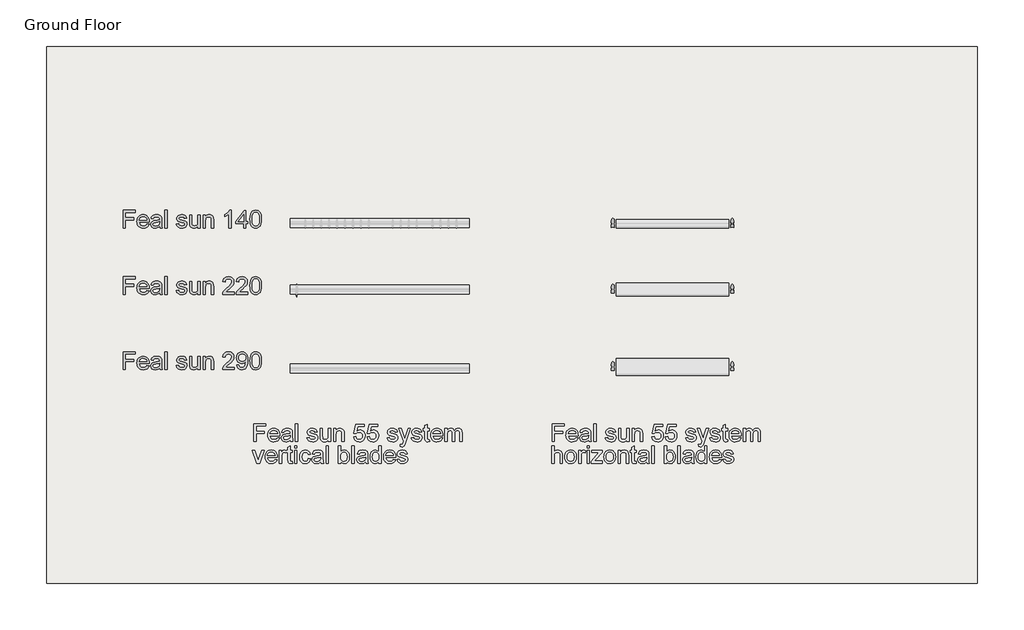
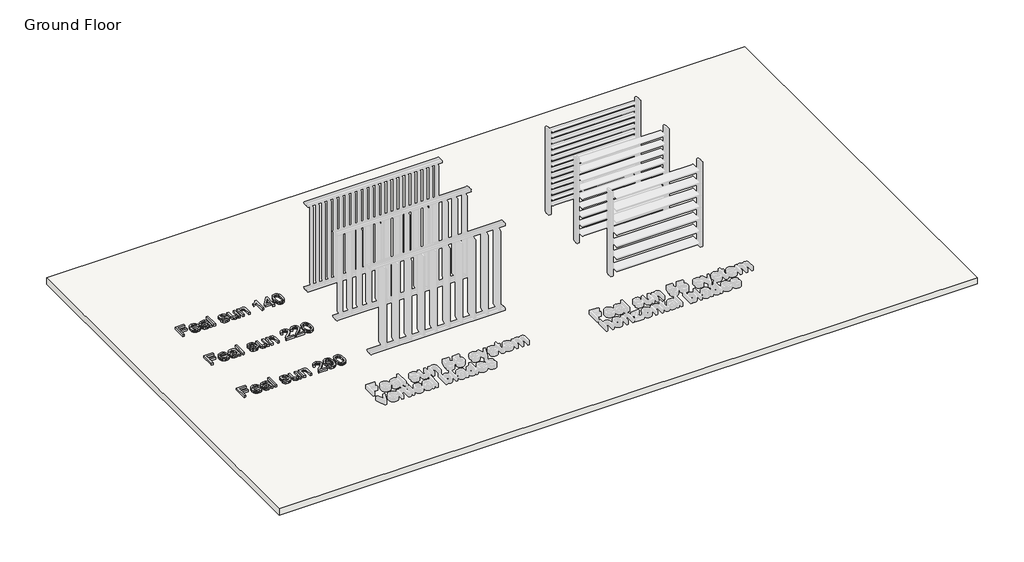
# One storey, part 1 of 3: 3 proxies, 1 slab.
"""IFC4 building model written with IfcOpenShell, lengths in millimetres."""

from ifc_helpers import new_model, si_unit, frame, origin, origin_with_axes, place, context, project, spatial, polyline, outline, extrude, element, save

model = new_model("IFC4")

# Units and contexts
model_context = context("Model", 3, world=origin())
ifc_project = project(units=[si_unit("LENGTHUNIT", "METRE", prefix="MILLI")], contexts=[model_context])

# Site, building, storey
site = spatial("IfcSite", under=ifc_project)
building = spatial("IfcBuilding", under=site)
storey = spatial("IfcBuildingStorey", under=building, Name="Ground Floor", Elevation=0.0)

# Proxies
placement = place(None, origin())
element("IfcBuildingElementProxy", 1, Name="600mm Arial", ObjectType="600mm Arial", at=placement, inside=storey, context=model_context, shape_type="SweptSolid", body=[
    extrude(outline(polyline([(-1988.9380209, -5184.120263), (-1988.9380209, -4888.7356476), (-1790.4764824, -4888.7356476), (-1790.4764824, -4925.6587245), (-1952.0149439, -4925.6587245), (-1952.0149439, -5013.3510322), (-1813.5534055, -5013.3510322), (-1813.5534055, -5050.2741091), (-1952.0149439, -5050.2741091), (-1952.0149439, -5184.120263), (-1988.9380209, -5184.120263)])), origin_with_axes(), (0.0, 0.0, 1.0), 50.0),
    extrude(outline(polyline([(-1592.4476363, -5119.5048784), (-1556.2457132, -5124.120263), (-1569.2895834, -5151.3979072), (-1590.1038863, -5171.7885322), (-1618.2198718, -5184.4988688), (-1653.1687901, -5188.7356476), (-1676.0789464, -5186.9079733), (-1696.4921074, -5181.4249505), (-1714.4082733, -5172.2865791), (-1729.8274439, -5159.4928591), (-1742.2267829, -5143.3998604), (-1751.0834536, -5124.3636524), (-1756.397456, -5102.3842354), (-1758.1687901, -5077.4616091), (-1756.3794271, -5051.6938808), (-1751.0113382, -5028.9820418), (-1742.0645233, -5009.3260923), (-1729.5389824, -4992.7260322), (-1714.1603766, -4979.5379313), (-1696.654367, -4970.1178591), (-1677.0209536, -4964.4658159), (-1655.2601363, -4962.5818015), (-1634.2001903, -4964.4613087), (-1615.154968, -4970.0998303), (-1598.1244692, -4979.4973664), (-1583.1086939, -4992.6539168), (-1570.8513322, -5009.2179192), (-1562.0960738, -5028.8378111), (-1556.8429187, -5051.5135923), (-1555.091867, -5077.245263), (-1555.3082132, -5087.1971861), (-1721.2457132, -5087.1971861), (-1714.8544872, -5114.8354072), (-1700.0077324, -5135.1539168), (-1678.5804488, -5147.6479072), (-1652.4476363, -5151.8125707), (-1632.7961939, -5149.8834841), (-1616.2457132, -5144.0962245), (-1602.7961939, -5134.0902149), (-1592.4476363, -5119.5048784)]), holes=[polyline([(-1721.2457132, -5050.2741091), (-1592.0149439, -5050.2741091), (-1597.0089343, -5030.7668976), (-1606.7985978, -5016.8125707), (-1628.3250401, -5003.8318015), (-1655.404367, -4999.5048784), (-1680.2931891, -5002.9574024), (-1700.873117, -5013.3149745), (-1715.1790064, -5029.4598063), (-1721.2457132, -5050.2741091)])]), origin_with_axes(), (0.0, 0.0, 1.0), 50.0),
    extrude(outline(polyline([(-1379.7072516, -5156.4279553), (-1397.3484776, -5171.5541572), (-1415.5125401, -5181.4519938), (-1434.6141026, -5186.9147341), (-1455.0678286, -5188.7356476), (-1485.9241988, -5184.354638), (-1508.685617, -5171.2116091), (-1522.7210738, -5151.2536765), (-1527.3995593, -5126.4279553), (-1525.6327324, -5111.1214649), (-1520.3322516, -5097.2212245), (-1512.1561699, -5085.3221861), (-1501.7625401, -5076.0193015), (-1475.9091747, -5063.9039168), (-1443.9620593, -5058.3510322), (-1406.2096555, -5052.5096861), (-1379.9235978, -5045.6587245), (-1379.7072516, -5037.4375707), (-1382.2493189, -5020.9592053), (-1389.8755209, -5010.1779553), (-1406.9308093, -5002.1731476), (-1430.6928286, -4999.5048784), (-1452.6880209, -5001.2807197), (-1468.0485978, -5006.6082438), (-1478.5233574, -5016.4610082), (-1485.8610978, -5031.8125707), (-1522.7841747, -5027.1971861), (-1516.3749199, -5007.0048784), (-1506.810617, -4991.1394938), (-1493.1988382, -4979.0060803), (-1474.6471555, -4970.0096861), (-1451.9578526, -4964.4387726), (-1425.9332132, -4962.5818015), (-1400.9722757, -4964.2224265), (-1381.185617, -4969.1443015), (-1366.2667468, -4976.5451428), (-1355.9091747, -4985.6226668), (-1349.0401843, -4996.8456236), (-1344.5870593, -5010.682763), (-1342.7841747, -5042.9904553), (-1342.7841747, -5088.9279553), (-1340.9091747, -5153.0745899), (-1333.5534055, -5184.120263), (-1370.4764824, -5184.120263), (-1379.7072516, -5156.4279553)]), holes=[polyline([(-1379.7072516, -5082.5818015), (-1439.2745593, -5093.9039168), (-1471.0413863, -5099.8894938), (-1485.4284055, -5109.6250707), (-1490.4764824, -5123.8318015), (-1487.7270834, -5134.8113688), (-1479.4788863, -5143.807763), (-1465.9121795, -5149.8113688), (-1447.2072516, -5151.8125707), (-1427.3755209, -5149.604037), (-1409.8514824, -5142.9784361), (-1395.6447516, -5133.2158159), (-1385.7649439, -5121.5962245), (-1381.3839343, -5109.6250707), (-1379.9235978, -5093.0385322), (-1379.7072516, -5082.5818015)])]), origin_with_axes(), (0.0, 0.0, 1.0), 50.0),
    extrude(outline(polyline([(-1292.0149439, -5184.120263), (-1292.0149439, -4888.7356476), (-1255.091867, -4888.7356476), (-1255.091867, -5184.120263), (-1292.0149439, -5184.120263)])), origin_with_axes(), (0.0, 0.0, 1.0), 50.0),
    extrude(outline(polyline([(-1098.1687901, -5119.5048784), (-1061.2457132, -5114.8894938), (-1055.4223959, -5130.682763), (-1044.154367, -5142.2933399), (-1027.3695113, -5149.432763), (-1004.9957132, -5151.8125707), (-982.8923478, -5149.6310803), (-967.3514824, -5143.0866091), (-958.1567709, -5133.6034361), (-955.091867, -5122.6058399), (-958.1747997, -5113.1947822), (-967.4235978, -5106.0193015), (-1005.4284055, -5095.4904553), (-1061.029367, -5077.4255515), (-1075.1008814, -5068.3480274), (-1085.2961939, -5056.3318015), (-1091.4891026, -5042.1430995), (-1093.5534055, -5026.5481476), (-1091.8947516, -5012.2422582), (-1086.9187901, -4999.0361284), (-1079.076242, -4987.4525947), (-1068.8178286, -4978.0144938), (-1045.3442709, -4967.089013), (-1013.5774439, -4962.5818015), (-989.544992, -4964.3937005), (-968.6495593, -4969.8293976), (-951.8466747, -4978.3570418), (-940.091867, -4989.4447822), (-932.3034055, -5003.9129313), (-927.3995593, -5022.5818015), (-964.3226363, -5027.1971861), (-968.983093, -5015.5775947), (-978.2048478, -5006.8245899), (-992.0780449, -5001.3348063), (-1010.6928286, -4999.5048784), (-1031.8947516, -5001.2536765), (-1046.029367, -5006.5000707), (-1053.9800882, -5014.0721861), (-1056.6303286, -5022.7981476), (-1052.2312901, -5033.5433399), (-1038.4572516, -5041.6923784), (-1006.654367, -5049.5529553), (-952.4596555, -5066.932763), (-938.1447516, -5075.2440611), (-927.2913863, -5086.620263), (-920.4494391, -5101.0974265), (-918.1687901, -5118.7116091), (-920.8460738, -5136.9207438), (-928.8779247, -5154.0481476), (-941.9578526, -5168.7506716), (-959.779367, -5179.6851668), (-981.3058093, -5186.4730274), (-1005.5005209, -5188.7356476), (-1042.7300882, -5184.3726668), (-1069.8995593, -5171.2837245), (-1088.0365786, -5149.6130515), (-1098.1687901, -5119.5048784)])), origin_with_axes(), (0.0, 0.0, 1.0), 50.0),
    extrude(outline(polyline([(-738.1687901, -5184.120263), (-738.1687901, -5146.8366091), (-751.5281651, -5165.1674385), (-767.0870593, -5178.260888), (-784.8454728, -5186.1169577), (-804.8034055, -5188.7356476), (-822.7871795, -5186.8967053), (-839.5269632, -5181.3798784), (-853.5714343, -5173.0866091), (-863.4692709, -5162.9183399), (-874.466867, -5135.7308399), (-876.6303286, -5101.4039168), (-876.6303286, -4967.1971861), (-839.7072516, -4967.1971861), (-839.7072516, -5084.0241091), (-837.4716747, -5121.6683399), (-832.0900641, -5134.2254313), (-822.8683093, -5143.7717053), (-810.4193911, -5149.8023543), (-795.3562901, -5151.8125707), (-779.4278045, -5149.7572822), (-764.5269632, -5143.5914168), (-752.2403045, -5133.8828832), (-744.154367, -5121.1995899), (-739.6651843, -5103.8287966), (-738.1687901, -5080.057763), (-738.1687901, -4967.1971861), (-701.2457132, -4967.1971861), (-701.2457132, -5184.120263), (-738.1687901, -5184.120263)])), origin_with_axes(), (0.0, 0.0, 1.0), 50.0),
    extrude(outline(polyline([(-650.4764824, -5184.120263), (-650.4764824, -4967.1971861), (-613.5534055, -4967.1971861), (-613.5534055, -4997.4856476), (-600.7258814, -4982.2152149), (-585.3202324, -4971.307763), (-567.3364584, -4964.7632918), (-546.7745593, -4962.5818015), (-528.5744391, -4964.339614), (-511.9067709, -4969.6130515), (-498.0065305, -4977.7440611), (-488.1086939, -4988.0745899), (-477.0389824, -5015.2260322), (-475.091867, -5050.9231476), (-475.091867, -5184.120263), (-512.0149439, -5184.120263), (-512.0149439, -5055.8991091), (-516.2697516, -5023.2308399), (-522.1561699, -5013.5042774), (-531.3058093, -5005.9592053), (-543.0335738, -5001.1184601), (-556.654367, -4999.5048784), (-578.279968, -5003.1286765), (-596.7144632, -5014.0000707), (-604.0815004, -5022.8747702), (-609.3436699, -5035.0036765), (-613.5534055, -5069.0241091), (-613.5534055, -5184.120263), (-650.4764824, -5184.120263)])), origin_with_axes(), (0.0, 0.0, 1.0), 50.0),
    extrude(outline(polyline([(-179.7072516, -5184.120263), (-216.6303286, -5184.120263), (-216.6303286, -4953.9279553), (-251.6062901, -4978.8438207), (-290.4764824, -4997.4856476), (-290.4764824, -4962.5818015), (-261.4770834, -4946.8065611), (-236.3538863, -4928.0385322), (-216.5491988, -4908.0805995), (-203.5053286, -4888.7356476), (-179.7072516, -4888.7356476), (-179.7072516, -5184.120263)])), origin_with_axes(), (0.0, 0.0, 1.0), 50.0),
    extrude(outline(polyline([(27.9850561, -5184.120263), (27.9850561, -5114.8894938), (-105.8610978, -5114.8894938), (-105.8610978, -5077.9664168), (37.2158253, -4893.3510322), (64.908133, -4893.3510322), (64.908133, -5077.9664168), (101.8312099, -5077.9664168), (101.8312099, -5114.8894938), (64.908133, -5114.8894938), (64.908133, -5184.120263), (27.9850561, -5184.120263)]), holes=[polyline([(27.9850561, -5077.9664168), (27.9850561, -4963.8798784), (-60.4284055, -5077.9664168), (27.9850561, -5077.9664168)])]), origin_with_axes(), (0.0, 0.0, 1.0), 50.0),
    extrude(outline(polyline([(134.1389022, -5038.807763), (136.8522436, -4991.527114), (144.9922676, -4953.8197822), (158.4778445, -4925.1088447), (177.2278445, -4904.8173784), (201.3774839, -4892.7560803), (231.0619791, -4888.7356476), (253.814383, -4891.1154553), (274.1869791, -4898.2548784), (291.2242387, -4909.8744697), (303.970633, -4925.6947822), (313.5980368, -4945.5805995), (321.2783253, -4969.3967053), (326.3083734, -4999.6400947), (327.9850561, -5038.807763), (325.298758, -5085.8179793), (317.2398637, -5123.4351668), (303.8354166, -5152.1731476), (285.1124599, -5172.5457438), (260.9087339, -5184.6881716), (231.0619791, -5188.7356476), (210.7254407, -5186.9778351), (192.6965945, -5181.7043976), (176.9754407, -5172.9153351), (163.5619791, -5160.6106476), (150.689383, -5138.3675587), (141.4946714, -5110.6527149), (135.9778445, -5077.4661164), (134.1389022, -5038.807763)]), holes=[polyline([(171.0619791, -5038.7356476), (175.3889022, -5096.8155755), (180.7975561, -5116.6811104), (188.3696714, -5130.4303591), (207.6965945, -5146.4670178), (231.0619791, -5151.8125707), (254.4273637, -5146.448989), (273.7542868, -5130.3582438), (281.3264022, -5116.5864589), (286.7350561, -5096.7254313), (291.0619791, -5038.7356476), (286.8792868, -4981.9628111), (281.6509214, -4962.1626308), (274.3312099, -4948.0866091), (255.0403445, -4931.2656957), (230.6292868, -4925.6587245), (207.5163061, -4930.5986284), (188.9465945, -4945.4183399), (181.1220753, -4960.7428591), (175.533133, -4981.4039168), (171.0619791, -5038.7356476)])]), origin_with_axes(), (0.0, 0.0, 1.0), 50.0),
])
element("IfcBuildingElementProxy", 2, Name="600mm Arial", ObjectType="600mm Arial", at=placement, inside=storey, context=model_context, shape_type="SweptSolid", body=[
    extrude(outline(polyline([(-1988.9380209, -6299.120263), (-1988.9380209, -6003.7356476), (-1790.4764824, -6003.7356476), (-1790.4764824, -6040.6587245), (-1952.0149439, -6040.6587245), (-1952.0149439, -6128.3510322), (-1813.5534055, -6128.3510322), (-1813.5534055, -6165.2741091), (-1952.0149439, -6165.2741091), (-1952.0149439, -6299.120263), (-1988.9380209, -6299.120263)])), origin_with_axes(), (0.0, 0.0, 1.0), 50.0),
    extrude(outline(polyline([(-1592.4476363, -6234.5048784), (-1556.2457132, -6239.120263), (-1569.2895834, -6266.3979072), (-1590.1038863, -6286.7885322), (-1618.2198718, -6299.4988688), (-1653.1687901, -6303.7356476), (-1676.0789464, -6301.9079733), (-1696.4921074, -6296.4249505), (-1714.4082733, -6287.2865791), (-1729.8274439, -6274.4928591), (-1742.2267829, -6258.3998604), (-1751.0834536, -6239.3636524), (-1756.397456, -6217.3842354), (-1758.1687901, -6192.4616091), (-1756.3794271, -6166.6938808), (-1751.0113382, -6143.9820418), (-1742.0645233, -6124.3260923), (-1729.5389824, -6107.7260322), (-1714.1603766, -6094.5379313), (-1696.654367, -6085.1178591), (-1677.0209536, -6079.4658159), (-1655.2601363, -6077.5818015), (-1634.2001903, -6079.4613087), (-1615.154968, -6085.0998303), (-1598.1244692, -6094.4973664), (-1583.1086939, -6107.6539168), (-1570.8513322, -6124.2179192), (-1562.0960738, -6143.8378111), (-1556.8429187, -6166.5135923), (-1555.091867, -6192.245263), (-1555.3082132, -6202.1971861), (-1721.2457132, -6202.1971861), (-1714.8544872, -6229.8354072), (-1700.0077324, -6250.1539168), (-1678.5804488, -6262.6479072), (-1652.4476363, -6266.8125707), (-1632.7961939, -6264.8834841), (-1616.2457132, -6259.0962245), (-1602.7961939, -6249.0902149), (-1592.4476363, -6234.5048784)]), holes=[polyline([(-1721.2457132, -6165.2741091), (-1592.0149439, -6165.2741091), (-1597.0089343, -6145.7668976), (-1606.7985978, -6131.8125707), (-1628.3250401, -6118.8318015), (-1655.404367, -6114.5048784), (-1680.2931891, -6117.9574024), (-1700.873117, -6128.3149745), (-1715.1790064, -6144.4598063), (-1721.2457132, -6165.2741091)])]), origin_with_axes(), (0.0, 0.0, 1.0), 50.0),
    extrude(outline(polyline([(-1379.7072516, -6271.4279553), (-1397.3484776, -6286.5541572), (-1415.5125401, -6296.4519938), (-1434.6141026, -6301.9147341), (-1455.0678286, -6303.7356476), (-1485.9241988, -6299.354638), (-1508.685617, -6286.2116091), (-1522.7210738, -6266.2536765), (-1527.3995593, -6241.4279553), (-1525.6327324, -6226.1214649), (-1520.3322516, -6212.2212245), (-1512.1561699, -6200.3221861), (-1501.7625401, -6191.0193015), (-1475.9091747, -6178.9039168), (-1443.9620593, -6173.3510322), (-1406.2096555, -6167.5096861), (-1379.9235978, -6160.6587245), (-1379.7072516, -6152.4375707), (-1382.2493189, -6135.9592053), (-1389.8755209, -6125.1779553), (-1406.9308093, -6117.1731476), (-1430.6928286, -6114.5048784), (-1452.6880209, -6116.2807197), (-1468.0485978, -6121.6082438), (-1478.5233574, -6131.4610082), (-1485.8610978, -6146.8125707), (-1522.7841747, -6142.1971861), (-1516.3749199, -6122.0048784), (-1506.810617, -6106.1394938), (-1493.1988382, -6094.0060803), (-1474.6471555, -6085.0096861), (-1451.9578526, -6079.4387726), (-1425.9332132, -6077.5818015), (-1400.9722757, -6079.2224265), (-1381.185617, -6084.1443015), (-1366.2667468, -6091.5451428), (-1355.9091747, -6100.6226668), (-1349.0401843, -6111.8456236), (-1344.5870593, -6125.682763), (-1342.7841747, -6157.9904553), (-1342.7841747, -6203.9279553), (-1340.9091747, -6268.0745899), (-1333.5534055, -6299.120263), (-1370.4764824, -6299.120263), (-1379.7072516, -6271.4279553)]), holes=[polyline([(-1379.7072516, -6197.5818015), (-1439.2745593, -6208.9039168), (-1471.0413863, -6214.8894938), (-1485.4284055, -6224.6250707), (-1490.4764824, -6238.8318015), (-1487.7270834, -6249.8113688), (-1479.4788863, -6258.807763), (-1465.9121795, -6264.8113688), (-1447.2072516, -6266.8125707), (-1427.3755209, -6264.604037), (-1409.8514824, -6257.9784361), (-1395.6447516, -6248.2158159), (-1385.7649439, -6236.5962245), (-1381.3839343, -6224.6250707), (-1379.9235978, -6208.0385322), (-1379.7072516, -6197.5818015)])]), origin_with_axes(), (0.0, 0.0, 1.0), 50.0),
    extrude(outline(polyline([(-1292.0149439, -6299.120263), (-1292.0149439, -6003.7356476), (-1255.091867, -6003.7356476), (-1255.091867, -6299.120263), (-1292.0149439, -6299.120263)])), origin_with_axes(), (0.0, 0.0, 1.0), 50.0),
    extrude(outline(polyline([(-1098.1687901, -6234.5048784), (-1061.2457132, -6229.8894938), (-1055.4223959, -6245.682763), (-1044.154367, -6257.2933399), (-1027.3695113, -6264.432763), (-1004.9957132, -6266.8125707), (-982.8923478, -6264.6310803), (-967.3514824, -6258.0866091), (-958.1567709, -6248.6034361), (-955.091867, -6237.6058399), (-958.1747997, -6228.1947822), (-967.4235978, -6221.0193015), (-1005.4284055, -6210.4904553), (-1061.029367, -6192.4255515), (-1075.1008814, -6183.3480274), (-1085.2961939, -6171.3318015), (-1091.4891026, -6157.1430995), (-1093.5534055, -6141.5481476), (-1091.8947516, -6127.2422582), (-1086.9187901, -6114.0361284), (-1079.076242, -6102.4525947), (-1068.8178286, -6093.0144938), (-1045.3442709, -6082.089013), (-1013.5774439, -6077.5818015), (-989.544992, -6079.3937005), (-968.6495593, -6084.8293976), (-951.8466747, -6093.3570418), (-940.091867, -6104.4447822), (-932.3034055, -6118.9129313), (-927.3995593, -6137.5818015), (-964.3226363, -6142.1971861), (-968.983093, -6130.5775947), (-978.2048478, -6121.8245899), (-992.0780449, -6116.3348063), (-1010.6928286, -6114.5048784), (-1031.8947516, -6116.2536765), (-1046.029367, -6121.5000707), (-1053.9800882, -6129.0721861), (-1056.6303286, -6137.7981476), (-1052.2312901, -6148.5433399), (-1038.4572516, -6156.6923784), (-1006.654367, -6164.5529553), (-952.4596555, -6181.932763), (-938.1447516, -6190.2440611), (-927.2913863, -6201.620263), (-920.4494391, -6216.0974265), (-918.1687901, -6233.7116091), (-920.8460738, -6251.9207438), (-928.8779247, -6269.0481476), (-941.9578526, -6283.7506716), (-959.779367, -6294.6851668), (-981.3058093, -6301.4730274), (-1005.5005209, -6303.7356476), (-1042.7300882, -6299.3726668), (-1069.8995593, -6286.2837245), (-1088.0365786, -6264.6130515), (-1098.1687901, -6234.5048784)])), origin_with_axes(), (0.0, 0.0, 1.0), 50.0),
    extrude(outline(polyline([(-738.1687901, -6299.120263), (-738.1687901, -6261.8366091), (-751.5281651, -6280.1674385), (-767.0870593, -6293.260888), (-784.8454728, -6301.1169577), (-804.8034055, -6303.7356476), (-822.7871795, -6301.8967053), (-839.5269632, -6296.3798784), (-853.5714343, -6288.0866091), (-863.4692709, -6277.9183399), (-874.466867, -6250.7308399), (-876.6303286, -6216.4039168), (-876.6303286, -6082.1971861), (-839.7072516, -6082.1971861), (-839.7072516, -6199.0241091), (-837.4716747, -6236.6683399), (-832.0900641, -6249.2254313), (-822.8683093, -6258.7717053), (-810.4193911, -6264.8023543), (-795.3562901, -6266.8125707), (-779.4278045, -6264.7572822), (-764.5269632, -6258.5914168), (-752.2403045, -6248.8828832), (-744.154367, -6236.1995899), (-739.6651843, -6218.8287966), (-738.1687901, -6195.057763), (-738.1687901, -6082.1971861), (-701.2457132, -6082.1971861), (-701.2457132, -6299.120263), (-738.1687901, -6299.120263)])), origin_with_axes(), (0.0, 0.0, 1.0), 50.0),
    extrude(outline(polyline([(-650.4764824, -6299.120263), (-650.4764824, -6082.1971861), (-613.5534055, -6082.1971861), (-613.5534055, -6112.4856476), (-600.7258814, -6097.2152149), (-585.3202324, -6086.307763), (-567.3364584, -6079.7632918), (-546.7745593, -6077.5818015), (-528.5744391, -6079.339614), (-511.9067709, -6084.6130515), (-498.0065305, -6092.7440611), (-488.1086939, -6103.0745899), (-477.0389824, -6130.2260322), (-475.091867, -6165.9231476), (-475.091867, -6299.120263), (-512.0149439, -6299.120263), (-512.0149439, -6170.8991091), (-516.2697516, -6138.2308399), (-522.1561699, -6128.5042774), (-531.3058093, -6120.9592053), (-543.0335738, -6116.1184601), (-556.654367, -6114.5048784), (-578.279968, -6118.1286765), (-596.7144632, -6129.0000707), (-604.0815004, -6137.8747702), (-609.3436699, -6150.0036765), (-613.5534055, -6184.0241091), (-613.5534055, -6299.120263), (-650.4764824, -6299.120263)])), origin_with_axes(), (0.0, 0.0, 1.0), 50.0),
    extrude(outline(polyline([(-128.9380209, -6262.1971861), (-128.9380209, -6299.120263), (-322.7841747, -6299.120263), (-318.8178286, -6273.6635322), (-309.7132613, -6253.7687005), (-296.3899439, -6234.4688207), (-277.1171074, -6214.2674986), (-250.1639824, -6191.6683399), (-210.3202324, -6156.2777149), (-186.4139824, -6130.1539168), (-174.4608574, -6108.9519938), (-170.4764824, -6088.3269938), (-174.2354968, -6069.838412), (-185.5125401, -6054.4688207), (-202.8472757, -6044.1112486), (-224.779367, -6040.6587245), (-247.811218, -6044.0301188), (-265.7048478, -6054.1443015), (-277.2523238, -6070.2080034), (-281.2457132, -6091.4279553), (-318.1687901, -6086.8125707), (-309.217468, -6051.0974265), (-300.8408153, -6036.8501308), (-289.8635016, -6025.0096861), (-276.5379307, -6015.7022942), (-261.1165064, -6009.0541572), (-223.9860978, -6003.7356476), (-204.1971855, -6005.214013), (-186.5852564, -6009.6491091), (-171.1503105, -6017.0409361), (-157.8923478, -6027.3894938), (-147.2440605, -6039.9285563), (-139.6381411, -6053.8918976), (-135.0745894, -6069.2795178), (-133.5534055, -6086.0914168), (-135.1940305, -6103.7506716), (-140.1159055, -6121.1034361), (-148.8508814, -6138.7536765), (-161.9308093, -6157.3053591), (-182.7811699, -6179.4537966), (-214.8274439, -6207.8943015), (-257.3034055, -6243.4111284), (-273.9620593, -6262.1971861), (-128.9380209, -6262.1971861)])), origin_with_axes(), (0.0, 0.0, 1.0), 50.0),
    extrude(outline(polyline([(97.2158253, -6262.1971861), (97.2158253, -6299.120263), (-96.6303286, -6299.120263), (-92.6639824, -6273.6635322), (-83.5594151, -6253.7687005), (-70.2360978, -6234.4688207), (-50.9632613, -6214.2674986), (-24.0101363, -6191.6683399), (15.8336137, -6156.2777149), (39.7398637, -6130.1539168), (51.6929887, -6108.9519938), (55.6773637, -6088.3269938), (51.9183493, -6069.838412), (40.6413061, -6054.4688207), (23.3065705, -6044.1112486), (1.3744791, -6040.6587245), (-21.6573718, -6044.0301188), (-39.5510016, -6054.1443015), (-51.0984776, -6070.2080034), (-55.091867, -6091.4279553), (-92.0149439, -6086.8125707), (-83.0636218, -6051.0974265), (-74.6869692, -6036.8501308), (-63.7096555, -6025.0096861), (-50.3840846, -6015.7022942), (-34.9626603, -6009.0541572), (2.1677484, -6003.7356476), (21.9566606, -6005.214013), (39.5685897, -6009.6491091), (55.0035356, -6017.0409361), (68.2614984, -6027.3894938), (78.9097856, -6039.9285563), (86.5157051, -6053.8918976), (91.0792568, -6069.2795178), (92.6004407, -6086.0914168), (90.9598157, -6103.7506716), (86.0379407, -6121.1034361), (77.3029647, -6138.7536765), (64.2230368, -6157.3053591), (43.3726762, -6179.4537966), (11.3264022, -6207.8943015), (-31.1495593, -6243.4111284), (-47.8082132, -6262.1971861), (97.2158253, -6262.1971861)])), origin_with_axes(), (0.0, 0.0, 1.0), 50.0),
    extrude(outline(polyline([(134.1389022, -6153.807763), (136.8522436, -6106.527114), (144.9922676, -6068.8197822), (158.4778445, -6040.1088447), (177.2278445, -6019.8173784), (201.3774839, -6007.7560803), (231.0619791, -6003.7356476), (253.814383, -6006.1154553), (274.1869791, -6013.2548784), (291.2242387, -6024.8744697), (303.970633, -6040.6947822), (313.5980368, -6060.5805995), (321.2783253, -6084.3967053), (326.3083734, -6114.6400947), (327.9850561, -6153.807763), (325.298758, -6200.8179793), (317.2398637, -6238.4351668), (303.8354166, -6267.1731476), (285.1124599, -6287.5457438), (260.9087339, -6299.6881716), (231.0619791, -6303.7356476), (210.7254407, -6301.9778351), (192.6965945, -6296.7043976), (176.9754407, -6287.9153351), (163.5619791, -6275.6106476), (150.689383, -6253.3675587), (141.4946714, -6225.6527149), (135.9778445, -6192.4661164), (134.1389022, -6153.807763)]), holes=[polyline([(171.0619791, -6153.7356476), (175.3889022, -6211.8155755), (180.7975561, -6231.6811104), (188.3696714, -6245.4303591), (207.6965945, -6261.4670178), (231.0619791, -6266.8125707), (254.4273637, -6261.448989), (273.7542868, -6245.3582438), (281.3264022, -6231.5864589), (286.7350561, -6211.7254313), (291.0619791, -6153.7356476), (286.8792868, -6096.9628111), (281.6509214, -6077.1626308), (274.3312099, -6063.0866091), (255.0403445, -6046.2656957), (230.6292868, -6040.6587245), (207.5163061, -6045.5986284), (188.9465945, -6060.4183399), (181.1220753, -6075.7428591), (175.533133, -6096.4039168), (171.0619791, -6153.7356476)])]), origin_with_axes(), (0.0, 0.0, 1.0), 50.0),
])
element("IfcBuildingElementProxy", 3, Name="600mm Arial", ObjectType="600mm Arial", at=placement, inside=storey, context=model_context, shape_type="SweptSolid", body=[
    extrude(outline(polyline([(-1988.9380209, -7559.1335497), (-1988.9380209, -7263.7489343), (-1790.4764824, -7263.7489343), (-1790.4764824, -7300.6720113), (-1952.0149439, -7300.6720113), (-1952.0149439, -7388.364319), (-1813.5534055, -7388.364319), (-1813.5534055, -7425.2873959), (-1952.0149439, -7425.2873959), (-1952.0149439, -7559.1335497), (-1988.9380209, -7559.1335497)])), origin_with_axes(), (0.0, 0.0, 1.0), 50.0),
    extrude(outline(polyline([(-1592.4476363, -7494.5181651), (-1556.2457132, -7499.1335497), (-1569.2895834, -7526.411194), (-1590.1038863, -7546.801819), (-1618.2198718, -7559.5121555), (-1653.1687901, -7563.7489343), (-1676.0789464, -7561.9212601), (-1696.4921074, -7556.4382372), (-1714.4082733, -7547.2998658), (-1729.8274439, -7534.5061459), (-1742.2267829, -7518.4131471), (-1751.0834536, -7499.3769391), (-1756.397456, -7477.3975221), (-1758.1687901, -7452.4748959), (-1756.3794271, -7426.7071675), (-1751.0113382, -7403.9953286), (-1742.0645233, -7384.3393791), (-1729.5389824, -7367.739319), (-1714.1603766, -7354.551218), (-1696.654367, -7345.1311459), (-1677.0209536, -7339.4791026), (-1655.2601363, -7337.5950882), (-1634.2001903, -7339.4745954), (-1615.154968, -7345.113117), (-1598.1244692, -7354.5106531), (-1583.1086939, -7367.6672036), (-1570.8513322, -7384.231206), (-1562.0960738, -7403.8510978), (-1556.8429187, -7426.5268791), (-1555.091867, -7452.2585497), (-1555.3082132, -7462.2104728), (-1721.2457132, -7462.2104728), (-1714.8544872, -7489.848694), (-1700.0077324, -7510.1672036), (-1678.5804488, -7522.661194), (-1652.4476363, -7526.8258574), (-1632.7961939, -7524.8967709), (-1616.2457132, -7519.1095113), (-1602.7961939, -7509.1035016), (-1592.4476363, -7494.5181651)]), holes=[polyline([(-1721.2457132, -7425.2873959), (-1592.0149439, -7425.2873959), (-1597.0089343, -7405.7801843), (-1606.7985978, -7391.8258574), (-1628.3250401, -7378.8450882), (-1655.404367, -7374.5181651), (-1680.2931891, -7377.9706891), (-1700.873117, -7388.3282613), (-1715.1790064, -7404.473093), (-1721.2457132, -7425.2873959)])]), origin_with_axes(), (0.0, 0.0, 1.0), 50.0),
    extrude(outline(polyline([(-1379.7072516, -7531.441242), (-1397.3484776, -7546.567444), (-1415.5125401, -7556.4652805), (-1434.6141026, -7561.9280209), (-1455.0678286, -7563.7489343), (-1485.9241988, -7559.3679247), (-1508.685617, -7546.2248959), (-1522.7210738, -7526.2669632), (-1527.3995593, -7501.441242), (-1525.6327324, -7486.1347516), (-1520.3322516, -7472.2345113), (-1512.1561699, -7460.3354728), (-1501.7625401, -7451.0325882), (-1475.9091747, -7438.9172036), (-1443.9620593, -7433.364319), (-1406.2096555, -7427.5229728), (-1379.9235978, -7420.6720113), (-1379.7072516, -7412.4508574), (-1382.2493189, -7395.972492), (-1389.8755209, -7385.191242), (-1406.9308093, -7377.1864343), (-1430.6928286, -7374.5181651), (-1452.6880209, -7376.2940065), (-1468.0485978, -7381.6215305), (-1478.5233574, -7391.4742949), (-1485.8610978, -7406.8258574), (-1522.7841747, -7402.2104728), (-1516.3749199, -7382.0181651), (-1506.810617, -7366.1527805), (-1493.1988382, -7354.019367), (-1474.6471555, -7345.0229728), (-1451.9578526, -7339.4520593), (-1425.9332132, -7337.5950882), (-1400.9722757, -7339.2357132), (-1381.185617, -7344.1575882), (-1366.2667468, -7351.5584295), (-1355.9091747, -7360.6359536), (-1349.0401843, -7371.8589103), (-1344.5870593, -7385.6960497), (-1342.7841747, -7418.003742), (-1342.7841747, -7463.941242), (-1340.9091747, -7528.0878766), (-1333.5534055, -7559.1335497), (-1370.4764824, -7559.1335497), (-1379.7072516, -7531.441242)]), holes=[polyline([(-1379.7072516, -7457.5950882), (-1439.2745593, -7468.9172036), (-1471.0413863, -7474.9027805), (-1485.4284055, -7484.6383574), (-1490.4764824, -7498.8450882), (-1487.7270834, -7509.8246555), (-1479.4788863, -7518.8210497), (-1465.9121795, -7524.8246555), (-1447.2072516, -7526.8258574), (-1427.3755209, -7524.6173238), (-1409.8514824, -7517.9917228), (-1395.6447516, -7508.2291026), (-1385.7649439, -7496.6095113), (-1381.3839343, -7484.6383574), (-1379.9235978, -7468.051819), (-1379.7072516, -7457.5950882)])]), origin_with_axes(), (0.0, 0.0, 1.0), 50.0),
    extrude(outline(polyline([(-1292.0149439, -7559.1335497), (-1292.0149439, -7263.7489343), (-1255.091867, -7263.7489343), (-1255.091867, -7559.1335497), (-1292.0149439, -7559.1335497)])), origin_with_axes(), (0.0, 0.0, 1.0), 50.0),
    extrude(outline(polyline([(-1098.1687901, -7494.5181651), (-1061.2457132, -7489.9027805), (-1055.4223959, -7505.6960497), (-1044.154367, -7517.3066266), (-1027.3695113, -7524.4460497), (-1004.9957132, -7526.8258574), (-982.8923478, -7524.644367), (-967.3514824, -7518.0998959), (-958.1567709, -7508.6167228), (-955.091867, -7497.6191266), (-958.1747997, -7488.208069), (-967.4235978, -7481.0325882), (-1005.4284055, -7470.503742), (-1061.029367, -7452.4388382), (-1075.1008814, -7443.3613141), (-1085.2961939, -7431.3450882), (-1091.4891026, -7417.1563863), (-1093.5534055, -7401.5614343), (-1091.8947516, -7387.2555449), (-1086.9187901, -7374.0494151), (-1079.076242, -7362.4658815), (-1068.8178286, -7353.0277805), (-1045.3442709, -7342.1022997), (-1013.5774439, -7337.5950882), (-989.544992, -7339.4069872), (-968.6495593, -7344.8426843), (-951.8466747, -7353.3703286), (-940.091867, -7364.458069), (-932.3034055, -7378.926218), (-927.3995593, -7397.5950882), (-964.3226363, -7402.2104728), (-968.983093, -7390.5908815), (-978.2048478, -7381.8378766), (-992.0780449, -7376.348093), (-1010.6928286, -7374.5181651), (-1031.8947516, -7376.2669632), (-1046.029367, -7381.5133574), (-1053.9800882, -7389.0854728), (-1056.6303286, -7397.8114343), (-1052.2312901, -7408.5566266), (-1038.4572516, -7416.7056651), (-1006.654367, -7424.566242), (-952.4596555, -7441.9460497), (-938.1447516, -7450.2573478), (-927.2913863, -7461.6335497), (-920.4494391, -7476.1107132), (-918.1687901, -7493.7248959), (-920.8460738, -7511.9340305), (-928.8779247, -7529.0614343), (-941.9578526, -7543.7639584), (-959.779367, -7554.6984536), (-981.3058093, -7561.4863141), (-1005.5005209, -7563.7489343), (-1042.7300882, -7559.3859536), (-1069.8995593, -7546.2970113), (-1088.0365786, -7524.6263382), (-1098.1687901, -7494.5181651)])), origin_with_axes(), (0.0, 0.0, 1.0), 50.0),
    extrude(outline(polyline([(-738.1687901, -7559.1335497), (-738.1687901, -7521.8498959), (-751.5281651, -7540.1807252), (-767.0870593, -7553.2741747), (-784.8454728, -7561.1302444), (-804.8034055, -7563.7489343), (-822.7871795, -7561.909992), (-839.5269632, -7556.3931651), (-853.5714343, -7548.0998959), (-863.4692709, -7537.9316266), (-874.466867, -7510.7441266), (-876.6303286, -7476.4172036), (-876.6303286, -7342.2104728), (-839.7072516, -7342.2104728), (-839.7072516, -7459.0373959), (-837.4716747, -7496.6816266), (-832.0900641, -7509.238718), (-822.8683093, -7518.784992), (-810.4193911, -7524.8156411), (-795.3562901, -7526.8258574), (-779.4278045, -7524.770569), (-764.5269632, -7518.6047036), (-752.2403045, -7508.8961699), (-744.154367, -7496.2128766), (-739.6651843, -7478.8420834), (-738.1687901, -7455.0710497), (-738.1687901, -7342.2104728), (-701.2457132, -7342.2104728), (-701.2457132, -7559.1335497), (-738.1687901, -7559.1335497)])), origin_with_axes(), (0.0, 0.0, 1.0), 50.0),
    extrude(outline(polyline([(-650.4764824, -7559.1335497), (-650.4764824, -7342.2104728), (-613.5534055, -7342.2104728), (-613.5534055, -7372.4989343), (-600.7258814, -7357.2285016), (-585.3202324, -7346.3210497), (-567.3364584, -7339.7765786), (-546.7745593, -7337.5950882), (-528.5744391, -7339.3529007), (-511.9067709, -7344.6263382), (-498.0065305, -7352.7573478), (-488.1086939, -7363.0878766), (-477.0389824, -7390.239319), (-475.091867, -7425.9364343), (-475.091867, -7559.1335497), (-512.0149439, -7559.1335497), (-512.0149439, -7430.9123959), (-516.2697516, -7398.2441266), (-522.1561699, -7388.5175641), (-531.3058093, -7380.972492), (-543.0335738, -7376.1317468), (-556.654367, -7374.5181651), (-578.279968, -7378.1419632), (-596.7144632, -7389.0133574), (-604.0815004, -7397.8880569), (-609.3436699, -7410.0169632), (-613.5534055, -7444.0373959), (-613.5534055, -7559.1335497), (-650.4764824, -7559.1335497)])), origin_with_axes(), (0.0, 0.0, 1.0), 50.0),
    extrude(outline(polyline([(-128.9380209, -7522.2104728), (-128.9380209, -7559.1335497), (-322.7841747, -7559.1335497), (-318.8178286, -7533.676819), (-309.7132613, -7513.7819872), (-296.3899439, -7494.4821074), (-277.1171074, -7474.2807853), (-250.1639824, -7451.6816266), (-210.3202324, -7416.2910016), (-186.4139824, -7390.1672036), (-174.4608574, -7368.9652805), (-170.4764824, -7348.3402805), (-174.2354968, -7329.8516988), (-185.5125401, -7314.4821074), (-202.8472757, -7304.1245353), (-224.779367, -7300.6720113), (-247.811218, -7304.0434055), (-265.7048478, -7314.1575882), (-277.2523238, -7330.2212901), (-281.2457132, -7351.441242), (-318.1687901, -7346.8258574), (-309.217468, -7311.1107132), (-300.8408153, -7296.8634175), (-289.8635016, -7285.0229728), (-276.5379307, -7275.715581), (-261.1165064, -7269.067444), (-223.9860978, -7263.7489343), (-204.1971855, -7265.2272997), (-186.5852564, -7269.6623959), (-171.1503105, -7277.0542228), (-157.8923478, -7287.4027805), (-147.2440605, -7299.941843), (-139.6381411, -7313.9051843), (-135.0745894, -7329.2928045), (-133.5534055, -7346.1047036), (-135.1940305, -7363.7639584), (-140.1159055, -7381.1167228), (-148.8508814, -7398.7669632), (-161.9308093, -7417.3186459), (-182.7811699, -7439.4670834), (-214.8274439, -7467.9075882), (-257.3034055, -7503.4244151), (-273.9620593, -7522.2104728), (-128.9380209, -7522.2104728)])), origin_with_axes(), (0.0, 0.0, 1.0), 50.0),
    extrude(outline(polyline([(-87.3995593, -7485.2873959), (-50.4764824, -7480.6720113), (-44.1663863, -7501.6305449), (-33.8899439, -7515.9003766), (-19.8995593, -7524.0944872), (-2.4476363, -7526.8258574), (13.2104166, -7525.0680449), (27.4441907, -7519.7946074), (39.2711137, -7511.582468), (47.7086137, -7501.0085497), (59.7879407, -7468.9172036), (65.1244791, -7426.0806651), (64.908133, -7418.8691266), (52.1166666, -7434.4821074), (35.376883, -7446.8498959), (15.8967147, -7454.9087901), (-5.1159055, -7457.5950882), (-22.6557192, -7455.9544632), (-38.7847757, -7451.0325882), (-53.503075, -7442.8294632), (-66.810617, -7431.3450882), (-77.8375101, -7417.1789223), (-85.7138622, -7400.9304247), (-90.4396735, -7382.5995954), (-92.0149439, -7362.1864343), (-90.3630509, -7341.0926843), (-85.4073718, -7322.1623959), (-77.1479067, -7305.395569), (-65.5846555, -7290.7922036), (-51.5334235, -7278.9607733), (-35.8100161, -7270.5097516), (-18.4144331, -7265.4391387), (0.6533253, -7263.7489343), (28.1923878, -7267.6071074), (53.2614984, -7279.1816266), (74.2290464, -7297.895569), (89.4634214, -7323.1720113), (98.7392628, -7358.1119151), (101.8312099, -7405.816242), (98.7482772, -7456.3961699), (89.4994791, -7495.4917228), (74.1659455, -7524.8697276), (52.8288061, -7546.2970113), (26.407532, -7559.3859536), (-4.1784055, -7563.7489343), (-35.7469151, -7558.6016988), (-60.9332132, -7543.159992), (-78.5473959, -7518.3973718), (-87.3995593, -7485.2873959)]), holes=[polyline([(64.908133, -7361.3210497), (60.923758, -7336.2970113), (48.970633, -7317.0422036), (30.4189503, -7304.7645593), (6.6389022, -7300.6720113), (-18.0245593, -7305.0800641), (-37.7841747, -7318.3042228), (-50.7649439, -7338.5416026), (-55.091867, -7363.989319), (-50.9993189, -7386.8048238), (-38.7216747, -7404.9147997), (-19.4488382, -7416.7327084), (5.6292868, -7420.6720113), (29.220032, -7416.7327084), (48.2134214, -7404.9147997), (60.7344551, -7386.1377565), (64.908133, -7361.3210497)])]), origin_with_axes(), (0.0, 0.0, 1.0), 50.0),
    extrude(outline(polyline([(134.1389022, -7413.8210497), (136.8522436, -7366.5404007), (144.9922676, -7328.833069), (158.4778445, -7300.1221315), (177.2278445, -7279.8306651), (201.3774839, -7267.769367), (231.0619791, -7263.7489343), (253.814383, -7266.128742), (274.1869791, -7273.2681651), (291.2242387, -7284.8877565), (303.970633, -7300.708069), (313.5980368, -7320.5938863), (321.2783253, -7344.409992), (326.3083734, -7374.6533815), (327.9850561, -7413.8210497), (325.298758, -7460.8312661), (317.2398637, -7498.4484536), (303.8354166, -7527.1864343), (285.1124599, -7547.5590305), (260.9087339, -7559.7014584), (231.0619791, -7563.7489343), (210.7254407, -7561.9911218), (192.6965945, -7556.7176843), (176.9754407, -7547.9286218), (163.5619791, -7535.6239343), (150.689383, -7513.3808454), (141.4946714, -7485.6660016), (135.9778445, -7452.4794031), (134.1389022, -7413.8210497)]), holes=[polyline([(171.0619791, -7413.7489343), (175.3889022, -7471.8288622), (180.7975561, -7491.6943971), (188.3696714, -7505.4436459), (207.6965945, -7521.4803045), (231.0619791, -7526.8258574), (254.4273637, -7521.4622757), (273.7542868, -7505.3715305), (281.3264022, -7491.5997456), (286.7350561, -7471.738718), (291.0619791, -7413.7489343), (286.8792868, -7356.9760978), (281.6509214, -7337.1759175), (274.3312099, -7323.0998959), (255.0403445, -7306.2789824), (230.6292868, -7300.6720113), (207.5163061, -7305.6119151), (188.9465945, -7320.4316266), (181.1220753, -7335.7561459), (175.533133, -7356.4172036), (171.0619791, -7413.7489343)])]), origin_with_axes(), (0.0, 0.0, 1.0), 50.0),
])

# Slab
element("IfcSlab", 4, ObjectType="Generic 150mm", at=placement, inside=storey, context=model_context, shape_type="SweptSolid", body=[
    extrude(outline(polyline([(12326.1204374, -2142.5533189), (12326.1204374, -11142.5533189), (-3273.8795626, -11142.5533189), (-3273.8795626, -2142.5533189), (12326.1204374, -2142.5533189)])), frame((0.0, 0.0, -150.0), z_axis=(0.0, 0.0, 1.0), x_axis=(1.0, 0.0, 0.0)), (0.0, 0.0, 1.0), 150.0),
])

save(model, "model.ifc")
